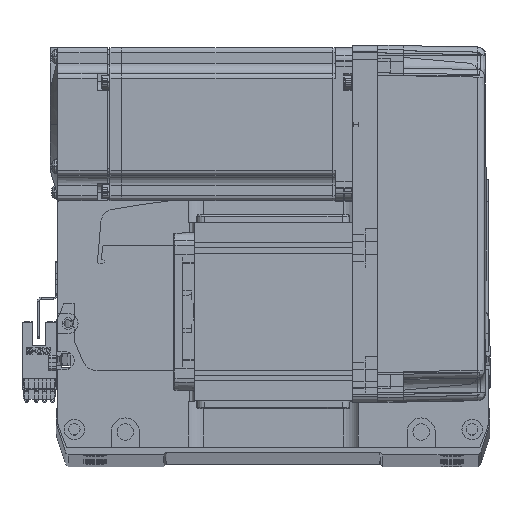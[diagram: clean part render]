
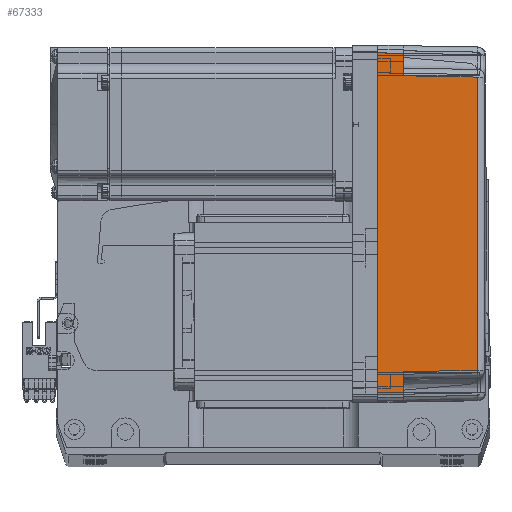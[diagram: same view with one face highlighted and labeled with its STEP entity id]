
A CAD part, top view. The second image highlights one B-rep face of the part: STEP entity #67333.
In plain terms, the highlighted planar face has unit normal (0.018, 0, 1) as drawn and (0, -1, 0.017) by its records, which use the part's own axes.
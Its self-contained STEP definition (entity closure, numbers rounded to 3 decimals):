
#841 = LINE ( 'NONE', #11011, #30131 ) ;
#1659 = EDGE_CURVE ( 'NONE', #10598, #8233, #14072, .T. ) ;
#2636 = DIRECTION ( 'NONE',  ( -0.017, 0.017, 1. ) ) ;
#3683 = VERTEX_POINT ( 'NONE', #63412 ) ;
#4576 = EDGE_CURVE ( 'NONE', #66956, #7084, #50556, .T. ) ;
#5214 = ORIENTED_EDGE ( 'NONE', *, *, #6860, .T. ) ;
#5263 = DIRECTION ( 'NONE',  ( -0.017, 0.017, 1. ) ) ;
#5542 = ORIENTED_EDGE ( 'NONE', *, *, #66839, .T. ) ;
#5596 = ORIENTED_EDGE ( 'NONE', *, *, #55443, .T. ) ;
#6227 = CARTESIAN_POINT ( 'NONE',  ( 0., -36., 0. ) ) ;
#6860 = EDGE_CURVE ( 'NONE', #8233, #53861, #52189, .T. ) ;
#7084 = VERTEX_POINT ( 'NONE', #40889 ) ;
#7695 = VERTEX_POINT ( 'NONE', #27032 ) ;
#8233 = VERTEX_POINT ( 'NONE', #21390 ) ;
#8297 = VECTOR ( 'NONE', #11381, 1000. ) ;
#9666 = CARTESIAN_POINT ( 'NONE',  ( 70., -35.825, 10. ) ) ;
#10598 = VERTEX_POINT ( 'NONE', #51995 ) ;
#11011 = CARTESIAN_POINT ( 'NONE',  ( 70., -35.825, 10. ) ) ;
#11282 = ORIENTED_EDGE ( 'NONE', *, *, #4576, .T. ) ;
#11381 = DIRECTION ( 'NONE',  ( -1., 0., 0. ) ) ;
#13433 = EDGE_CURVE ( 'NONE', #3683, #7695, #57127, .T. ) ;
#13496 = VECTOR ( 'NONE', #2636, 1000. ) ;
#13634 = CARTESIAN_POINT ( 'NONE',  ( 58., -35.825, 10. ) ) ;
#14072 = B_SPLINE_CURVE_WITH_KNOTS ( 'NONE', 3,
 ( #56438, #47763, #31616, #46838 ),
 .UNSPECIFIED., .F., .F.,
 ( 4, 4 ),
 ( 0., 1. ),
 .UNSPECIFIED. ) ;
#14099 = ORIENTED_EDGE ( 'NONE', *, *, #46214, .F. ) ;
#16976 = VERTEX_POINT ( 'NONE', #33343 ) ;
#18502 = LINE ( 'NONE', #13634, #13496 ) ;
#18699 = VECTOR ( 'NONE', #5263, 1000. ) ;
#21053 = CARTESIAN_POINT ( 'NONE',  ( -66.959, -35.958, 2.39 ) ) ;
#21390 = CARTESIAN_POINT ( 'NONE',  ( -57.495, -35.32, 38.985 ) ) ;
#22488 = LINE ( 'NONE', #9666, #31721 ) ;
#25787 = DIRECTION ( 'NONE',  ( -1., 0., 0. ) ) ;
#26816 = DIRECTION ( 'NONE',  ( 0., -1., 0.017 ) ) ;
#27032 = CARTESIAN_POINT ( 'NONE',  ( -66.826, -35.825, 10. ) ) ;
#30131 = VECTOR ( 'NONE', #42411, 1000. ) ;
#31616 = CARTESIAN_POINT ( 'NONE',  ( -19.165, -35.316, 39.181 ) ) ;
#31721 = VECTOR ( 'NONE', #25787, 1000. ) ;
#33343 = CARTESIAN_POINT ( 'NONE',  ( 58., -35.825, 10. ) ) ;
#34285 = ORIENTED_EDGE ( 'NONE', *, *, #59142, .T. ) ;
#36805 = ORIENTED_EDGE ( 'NONE', *, *, #13433, .F. ) ;
#37269 = DIRECTION ( 'NONE',  ( 0.017, 0.017, 1. ) ) ;
#37313 = CARTESIAN_POINT ( 'NONE',  ( -58., -35.825, 10. ) ) ;
#38427 = CARTESIAN_POINT ( 'NONE',  ( 67., -36., 0. ) ) ;
#38449 = FACE_OUTER_BOUND ( 'NONE', #42428, .T. ) ;
#39539 = VECTOR ( 'NONE', #37269, 1000. ) ;
#40889 = CARTESIAN_POINT ( 'NONE',  ( 66.826, -35.825, 10. ) ) ;
#41170 = CARTESIAN_POINT ( 'NONE',  ( -57.495, -35.32, 38.985 ) ) ;
#42411 = DIRECTION ( 'NONE',  ( -1., 0., 0. ) ) ;
#42428 = EDGE_LOOP ( 'NONE', ( #11282, #34285, #5596, #59389, #5214, #5542, #36805, #14099 ) ) ;
#45563 = AXIS2_PLACEMENT_3D ( 'NONE', #58907, #26816, #64266 ) ;
#46214 = EDGE_CURVE ( 'NONE', #66956, #3683, #51003, .T. ) ;
#46838 = CARTESIAN_POINT ( 'NONE',  ( -57.495, -35.32, 38.985 ) ) ;
#47763 = CARTESIAN_POINT ( 'NONE',  ( 19.165, -35.316, 39.181 ) ) ;
#50556 = LINE ( 'NONE', #67685, #18699 ) ;
#51003 = LINE ( 'NONE', #6227, #8297 ) ;
#51395 = VECTOR ( 'NONE', #51914, 1000. ) ;
#51914 = DIRECTION ( 'NONE',  ( -0.017, -0.017, -1. ) ) ;
#51995 = CARTESIAN_POINT ( 'NONE',  ( 57.495, -35.32, 38.985 ) ) ;
#52189 = LINE ( 'NONE', #41170, #51395 ) ;
#53527 = PLANE ( 'NONE',  #45563 ) ;
#53861 = VERTEX_POINT ( 'NONE', #37313 ) ;
#55443 = EDGE_CURVE ( 'NONE', #16976, #10598, #18502, .T. ) ;
#56438 = CARTESIAN_POINT ( 'NONE',  ( 57.495, -35.32, 38.985 ) ) ;
#57127 = LINE ( 'NONE', #21053, #39539 ) ;
#58907 = CARTESIAN_POINT ( 'NONE',  ( 70., -36., 0. ) ) ;
#59142 = EDGE_CURVE ( 'NONE', #7084, #16976, #22488, .T. ) ;
#59389 = ORIENTED_EDGE ( 'NONE', *, *, #1659, .T. ) ;
#63412 = CARTESIAN_POINT ( 'NONE',  ( -67., -36., 0. ) ) ;
#64266 = DIRECTION ( 'NONE',  ( 0., -0.017, -1. ) ) ;
#66839 = EDGE_CURVE ( 'NONE', #53861, #7695, #841, .T. ) ;
#66956 = VERTEX_POINT ( 'NONE', #38427 ) ;
#67333 = ADVANCED_FACE ( 'NONE', ( #38449 ), #53527, .T. ) ;
#67685 = CARTESIAN_POINT ( 'NONE',  ( 67., -36., 0. ) ) ;
